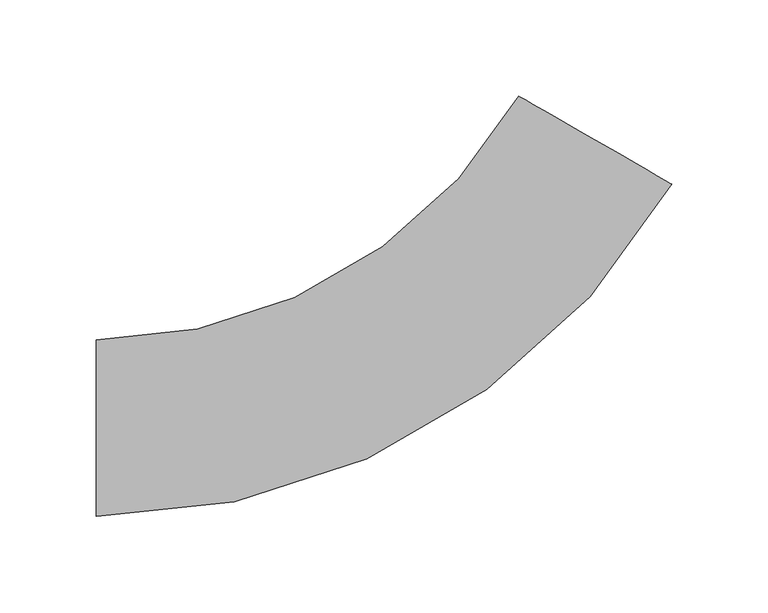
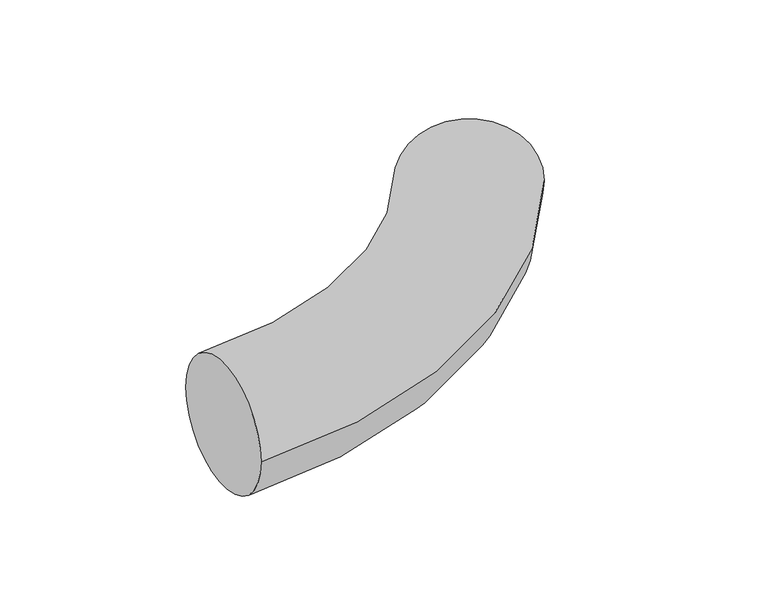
"""IFC4 building model written with IfcOpenShell, lengths in millimetres: duct segment geometry, NLRS_57_DUF_UN_Hybalans flexbend round_M&G : extract ø75 ø92 (red)."""

from ifc_helpers import new_model, si_unit, point, frame, origin, place, context, project, spatial, circle_curve, ellipse_curve, trimmed, source, transform, mapped, element, save
from ifc_brep_helpers import plane_surface, revolved_surface, advanced_brep


def duct_segment_a7808f3f(model_context):
    return source(origin(), model_context, "Body", "AdvancedBrep", [
        advanced_brep(
        [(-173.2050808, -46.0, 0.0), (-173.2050808, 46.0, 0.0), (126.439709, 127.0, 0.0), (46.7653718, 173.0, 0.0)],
        [
            (0, 1, circle_curve(frame((-173.2050808, 0.0, 0.0), z_axis=(-1.0, 0.0, 0.0), x_axis=(0.0, 1.0, 0.0)), 46.0)),
            (1, 0, circle_curve(frame((-173.2050808, 0.0, 0.0), z_axis=(-1.0, 0.0, 0.0), x_axis=(0.0, 1.0, 0.0)), 46.0)),
            (2, 3, circle_curve(frame((86.6025404, 150.0, 0.0), z_axis=(0.5000000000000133, 0.8660254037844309, 0.0), x_axis=(-0.8660254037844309, 0.5000000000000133, 0.0)), 46.0)),
            (3, 2, circle_curve(frame((86.6025404, 150.0, 0.0), z_axis=(0.5000000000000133, 0.8660254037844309, 0.0), x_axis=(-0.8660254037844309, 0.5000000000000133, 0.0)), 46.0)),
            (3, 1, circle_curve(frame((-173.2050808, 300.0, 0.0), z_axis=(0.0, 0.0, -1.0), x_axis=(0.0, -1.0, 0.0)), 254.0)),
            (0, 2, circle_curve(frame((-173.2050808, 300.0, 0.0), z_axis=(0.0, 0.0, 1.0), x_axis=(0.0, -1.0, 0.0)), 346.0)),
        ],
        [
            plane_surface(frame((-173.2050808, 0.0, 0.0), z_axis=(-1.0, 0.0, 0.0), x_axis=(0.0, 0.0, 1.0))),
            plane_surface(frame((86.6025404, 150.0, 0.0), z_axis=(0.5000000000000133, 0.8660254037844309, 0.0), x_axis=(0.0, 0.0, 1.0))),
            revolved_surface(trimmed(ellipse_curve(frame((-173.2050808, 0.0, 0.0), z_axis=(-1.0, 0.0, 0.0), x_axis=(0.0, 1.0, 0.0)), 46.0, 46.0), [point((-173.2050808, -46.0, 0.0))], [point((-173.2050808, 46.0, 0.0))], True, "CARTESIAN"), (-173.2050808, 300.0, 0.0), (0.0, 0.0, 1.0)),
            revolved_surface(trimmed(ellipse_curve(frame((-173.2050808, 0.0, 0.0), z_axis=(-1.0, 0.0, 0.0), x_axis=(0.0, 1.0, 0.0)), 46.0, 46.0), [point((-173.2050808, 46.0, 0.0))], [point((-173.2050808, -46.0, 0.0))], True, "CARTESIAN"), (-173.2050808, 300.0, 0.0), (0.0, 0.0, 1.0)),
        ],
        [
            (0, [[1, 2]]),
            (1, [[3, 4]]),
            (2, [[5, -1, 6, -4]]),
            (3, [[-6, -2, -5, -3]]),
        ],
    ),
    ])


if __name__ == "__main__":
    model = new_model("IFC4")
    model_context = context("Model", 3, world=origin())
    ifc_project = project(units=[si_unit("LENGTHUNIT", "METRE", prefix="MILLI")], contexts=[model_context])
    site = spatial("IfcSite", under=ifc_project)
    building = spatial("IfcBuilding", under=site)
    placement = place(None, origin())
    duct_segment_shape = duct_segment_a7808f3f(model_context)
    element("IfcDuctSegment", 1, ObjectType="NLRS_57_DUF_UN_Hybalans flexbend round_M&G : extract ø75 ø92 (red)", at=placement, inside=building, context=model_context, shape_type="MappedRepresentation", body=[
        mapped(duct_segment_shape, transform((0.0, 0.0, 0.0), x_axis=(1.0, 0.0, 0.0), y_axis=(0.0, 1.0, 0.0), z_axis=(0.0, 0.0, 1.0))),
    ])
    save(model, "model.ifc")
